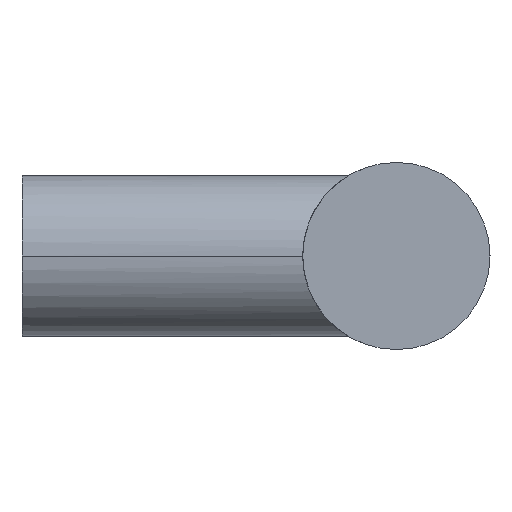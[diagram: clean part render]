
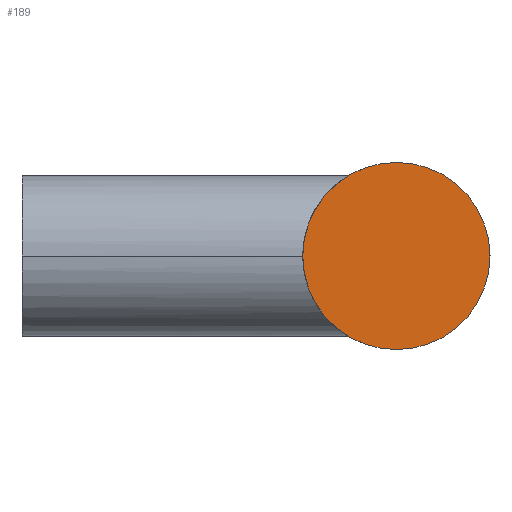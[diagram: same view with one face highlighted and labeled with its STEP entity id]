
A CAD part, left-side view. The second image highlights one B-rep face of the part: STEP entity #189.
In plain terms, the highlighted planar face has unit normal (-1, 0, 0).
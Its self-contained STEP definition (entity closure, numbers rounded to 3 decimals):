
#109 = EDGE_CURVE( '', #139, #161, #271, .T. );
#139 = VERTEX_POINT( '', #304 );
#161 = VERTEX_POINT( '', #327 );
#189 = ADVANCED_FACE( '', ( #359 ), #360, .F. );
#195 = EDGE_CURVE( '', #161, #139, #366, .T. );
#271 = CIRCLE( '', #443, 7. );
#304 = CARTESIAN_POINT( '', ( -30., -28., 7. ) );
#327 = CARTESIAN_POINT( '', ( -30., -28., -7. ) );
#359 = FACE_OUTER_BOUND( '', #607, .T. );
#360 = PLANE( '', #608 );
#366 = CIRCLE( '', #650, 7. );
#443 = AXIS2_PLACEMENT_3D( '', #787, #788, #789 );
#607 = EDGE_LOOP( '', ( #880, #881 ) );
#608 = AXIS2_PLACEMENT_3D( '', #882, #883, #884 );
#650 = AXIS2_PLACEMENT_3D( '', #888, #889, #890 );
#787 = CARTESIAN_POINT( '', ( -30., -28., 0. ) );
#788 = DIRECTION( '', ( 1., 0., 0. ) );
#789 = DIRECTION( '', ( 0., 0., -1. ) );
#880 = ORIENTED_EDGE( '', *, *, #195, .F. );
#881 = ORIENTED_EDGE( '', *, *, #109, .F. );
#882 = CARTESIAN_POINT( '', ( -30., 0., 0. ) );
#883 = DIRECTION( '', ( 1., 0., 0. ) );
#884 = DIRECTION( '', ( 0., 0., -1. ) );
#888 = CARTESIAN_POINT( '', ( -30., -28., 0. ) );
#889 = DIRECTION( '', ( 1., 0., 0. ) );
#890 = DIRECTION( '', ( 0., 0., -1. ) );
